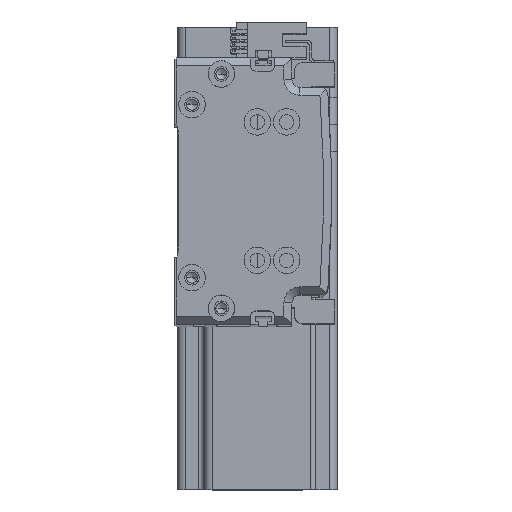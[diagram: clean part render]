
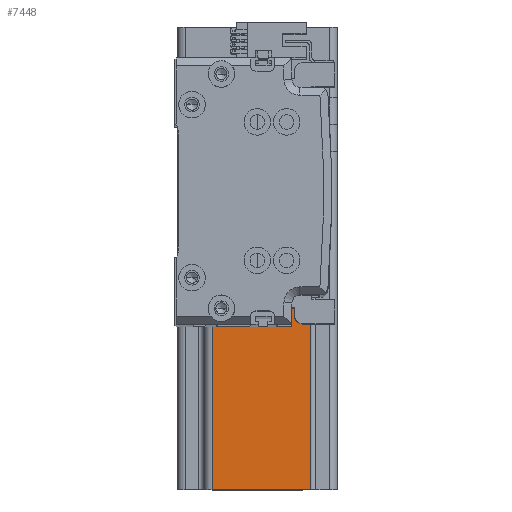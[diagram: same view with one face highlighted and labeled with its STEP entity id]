
A CAD part, top view. The second image highlights one B-rep face of the part: STEP entity #7448.
In plain terms, the highlighted planar face has unit normal (0, 0, 1) as drawn and (-1, 0, 0) by its records, which use the part's own axes.
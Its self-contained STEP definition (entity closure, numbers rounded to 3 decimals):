
#1158 = CARTESIAN_POINT ( 'NONE',  ( -30., 27., 10. ) ) ;
#1395 = VECTOR ( 'NONE', #26960, 1000. ) ;
#2990 = ORIENTED_EDGE ( 'NONE', *, *, #8490, .F. ) ;
#3838 = CARTESIAN_POINT ( 'NONE',  ( -30., -27., 10. ) ) ;
#5231 = CARTESIAN_POINT ( 'NONE',  ( -30., -30., 0. ) ) ;
#5564 = DIRECTION ( 'NONE',  ( 0., 0., 1. ) ) ;
#7068 = CARTESIAN_POINT ( 'NONE',  ( -30., -30., 10. ) ) ;
#7448 = ADVANCED_FACE ( 'NONE', ( #35804 ), #8964, .F. ) ;
#8087 = CARTESIAN_POINT ( 'NONE',  ( -30., 20., 10. ) ) ;
#8092 = LINE ( 'NONE', #11875, #16619 ) ;
#8490 = EDGE_CURVE ( 'NONE', #15213, #21523, #23715, .T. ) ;
#8872 = CARTESIAN_POINT ( 'NONE',  ( -30., 30., 10. ) ) ;
#8964 = PLANE ( 'NONE',  #21214 ) ;
#9106 = CARTESIAN_POINT ( 'NONE',  ( -30., -30., 137. ) ) ;
#10072 = DIRECTION ( 'NONE',  ( 0., -1., 0. ) ) ;
#10537 = VECTOR ( 'NONE', #5564, 1000. ) ;
#11875 = CARTESIAN_POINT ( 'NONE',  ( -30., -17., 137. ) ) ;
#12029 = ORIENTED_EDGE ( 'NONE', *, *, #41660, .T. ) ;
#12757 = VERTEX_POINT ( 'NONE', #3838 ) ;
#12802 = DIRECTION ( 'NONE',  ( 0., 0., -1. ) ) ;
#13985 = ORIENTED_EDGE ( 'NONE', *, *, #30637, .F. ) ;
#15213 = VERTEX_POINT ( 'NONE', #8087 ) ;
#16080 = DIRECTION ( 'NONE',  ( 0., -1., 0. ) ) ;
#16619 = VECTOR ( 'NONE', #19793, 1000. ) ;
#16944 = LINE ( 'NONE', #8872, #36227 ) ;
#16991 = ORIENTED_EDGE ( 'NONE', *, *, #35724, .T. ) ;
#18928 = EDGE_LOOP ( 'NONE', ( #13985, #35167, #21562, #2990, #34852, #34726, #12029, #16991 ) ) ;
#19793 = DIRECTION ( 'NONE',  ( 0., 0., 1. ) ) ;
#20137 = CARTESIAN_POINT ( 'NONE',  ( -30., -27., 137. ) ) ;
#20431 = VERTEX_POINT ( 'NONE', #1158 ) ;
#20737 = VERTEX_POINT ( 'NONE', #28356 ) ;
#20997 = EDGE_CURVE ( 'NONE', #23406, #20737, #8092, .T. ) ;
#21214 = AXIS2_PLACEMENT_3D ( 'NONE', #9106, #34483, #12802 ) ;
#21384 = VECTOR ( 'NONE', #16080, 1000. ) ;
#21523 = VERTEX_POINT ( 'NONE', #37193 ) ;
#21562 = ORIENTED_EDGE ( 'NONE', *, *, #30787, .F. ) ;
#22509 = LINE ( 'NONE', #23081, #21384 ) ;
#23081 = CARTESIAN_POINT ( 'NONE',  ( -30., -30., 137. ) ) ;
#23258 = CARTESIAN_POINT ( 'NONE',  ( -30., 27., 137. ) ) ;
#23406 = VERTEX_POINT ( 'NONE', #41180 ) ;
#23715 = LINE ( 'NONE', #41354, #41864 ) ;
#25340 = VECTOR ( 'NONE', #10072, 1000. ) ;
#26347 = VERTEX_POINT ( 'NONE', #27508 ) ;
#26960 = DIRECTION ( 'NONE',  ( 0., -1., 0. ) ) ;
#27400 = VECTOR ( 'NONE', #34181, 1000. ) ;
#27508 = CARTESIAN_POINT ( 'NONE',  ( -30., 27., 0. ) ) ;
#28356 = CARTESIAN_POINT ( 'NONE',  ( -30., -17., 137. ) ) ;
#28942 = EDGE_CURVE ( 'NONE', #20431, #26347, #37042, .T. ) ;
#29800 = LINE ( 'NONE', #20137, #10537 ) ;
#30585 = DIRECTION ( 'NONE',  ( 0., 1., 0. ) ) ;
#30637 = EDGE_CURVE ( 'NONE', #23406, #12757, #44586, .T. ) ;
#30787 = EDGE_CURVE ( 'NONE', #21523, #20737, #22509, .T. ) ;
#34181 = DIRECTION ( 'NONE',  ( 0., 0., -1. ) ) ;
#34483 = DIRECTION ( 'NONE',  ( 1., 0., 0. ) ) ;
#34726 = ORIENTED_EDGE ( 'NONE', *, *, #28942, .T. ) ;
#34852 = ORIENTED_EDGE ( 'NONE', *, *, #38615, .T. ) ;
#35167 = ORIENTED_EDGE ( 'NONE', *, *, #20997, .T. ) ;
#35414 = LINE ( 'NONE', #5231, #1395 ) ;
#35724 = EDGE_CURVE ( 'NONE', #38810, #12757, #29800, .T. ) ;
#35804 = FACE_OUTER_BOUND ( 'NONE', #18928, .T. ) ;
#36227 = VECTOR ( 'NONE', #30585, 1000. ) ;
#37042 = LINE ( 'NONE', #23258, #27400 ) ;
#37193 = CARTESIAN_POINT ( 'NONE',  ( -30., 20., 137. ) ) ;
#38615 = EDGE_CURVE ( 'NONE', #15213, #20431, #16944, .T. ) ;
#38810 = VERTEX_POINT ( 'NONE', #46243 ) ;
#41180 = CARTESIAN_POINT ( 'NONE',  ( -30., -17., 10. ) ) ;
#41354 = CARTESIAN_POINT ( 'NONE',  ( -30., 20., 10. ) ) ;
#41660 = EDGE_CURVE ( 'NONE', #26347, #38810, #35414, .T. ) ;
#41864 = VECTOR ( 'NONE', #44995, 1000. ) ;
#44586 = LINE ( 'NONE', #7068, #25340 ) ;
#44995 = DIRECTION ( 'NONE',  ( 0., 0., 1. ) ) ;
#46243 = CARTESIAN_POINT ( 'NONE',  ( -30., -27., 0. ) ) ;
